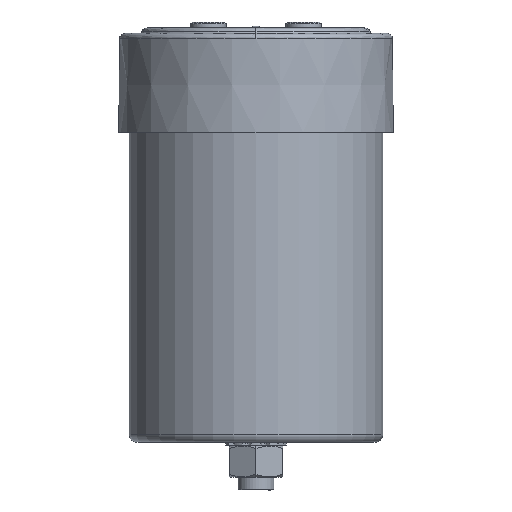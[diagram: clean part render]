
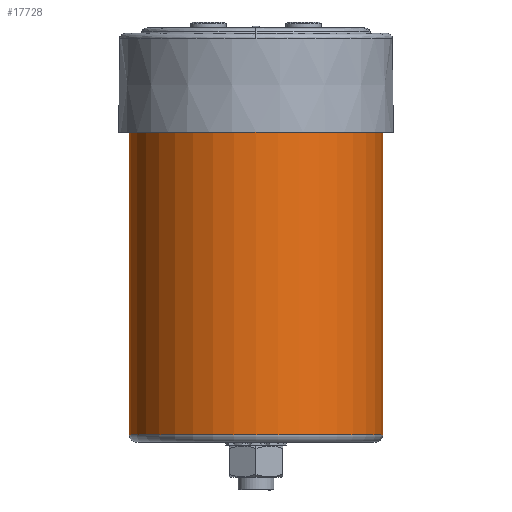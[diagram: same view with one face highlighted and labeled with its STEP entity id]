
A CAD part, left-side view. The second image highlights one B-rep face of the part: STEP entity #17728.
In plain terms, the highlighted cylindrical face has radius 42.5 mm (diameter 85 mm), a partial arc.
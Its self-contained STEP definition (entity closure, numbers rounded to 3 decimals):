
#585 = CARTESIAN_POINT ( 'NONE',  ( 0., 0., 0. ) ) ;
#1256 = ORIENTED_EDGE ( 'NONE', *, *, #18326, .T. ) ;
#2121 = DIRECTION ( 'NONE',  ( 0., -1., 0. ) ) ;
#2130 = LINE ( 'NONE', #14273, #14853 ) ;
#2350 = CYLINDRICAL_SURFACE ( 'NONE', #4437, 42.5 ) ;
#2366 = DIRECTION ( 'NONE',  ( 0., 0., -1. ) ) ;
#2852 = CARTESIAN_POINT ( 'NONE',  ( 0., 42.5, 0. ) ) ;
#3515 = DIRECTION ( 'NONE',  ( 0., 0., -1. ) ) ;
#4437 = AXIS2_PLACEMENT_3D ( 'NONE', #9239, #3515, #4762 ) ;
#4762 = DIRECTION ( 'NONE',  ( 0., -1., 0. ) ) ;
#4766 = DIRECTION ( 'NONE',  ( 0., 0., -1. ) ) ;
#4891 = CARTESIAN_POINT ( 'NONE',  ( 0., 42.5, -129.5 ) ) ;
#6238 = VERTEX_POINT ( 'NONE', #4891 ) ;
#7119 = CARTESIAN_POINT ( 'NONE',  ( 0., -42.5, -129.5 ) ) ;
#7380 = CIRCLE ( 'NONE', #15180, 42.5 ) ;
#7431 = LINE ( 'NONE', #14028, #12561 ) ;
#7694 = CARTESIAN_POINT ( 'NONE',  ( 0., -42.5, 0. ) ) ;
#7783 = CARTESIAN_POINT ( 'NONE',  ( 0., 0., -129.5 ) ) ;
#8447 = VERTEX_POINT ( 'NONE', #7694 ) ;
#9239 = CARTESIAN_POINT ( 'NONE',  ( 0., 0., -132. ) ) ;
#10641 = DIRECTION ( 'NONE',  ( 0., 0., 1. ) ) ;
#10861 = VERTEX_POINT ( 'NONE', #2852 ) ;
#11131 = ORIENTED_EDGE ( 'NONE', *, *, #12097, .F. ) ;
#11197 = VERTEX_POINT ( 'NONE', #7119 ) ;
#11252 = CIRCLE ( 'NONE', #14896, 42.5 ) ;
#12070 = DIRECTION ( 'NONE',  ( 0., -1., 0. ) ) ;
#12097 = EDGE_CURVE ( 'NONE', #8447, #11197, #2130, .T. ) ;
#12561 = VECTOR ( 'NONE', #2366, 1000. ) ;
#12974 = EDGE_CURVE ( 'NONE', #10861, #6238, #7431, .T. ) ;
#13942 = FACE_OUTER_BOUND ( 'NONE', #14394, .T. ) ;
#14028 = CARTESIAN_POINT ( 'NONE',  ( 0., 42.5, -132. ) ) ;
#14210 = DIRECTION ( 'NONE',  ( 0., 0., -1. ) ) ;
#14273 = CARTESIAN_POINT ( 'NONE',  ( 0., -42.5, -132. ) ) ;
#14394 = EDGE_LOOP ( 'NONE', ( #16774, #17827, #1256, #11131 ) ) ;
#14733 = EDGE_CURVE ( 'NONE', #8447, #10861, #7380, .T. ) ;
#14853 = VECTOR ( 'NONE', #14210, 1000. ) ;
#14896 = AXIS2_PLACEMENT_3D ( 'NONE', #7783, #10641, #2121 ) ;
#15180 = AXIS2_PLACEMENT_3D ( 'NONE', #585, #4766, #12070 ) ;
#16774 = ORIENTED_EDGE ( 'NONE', *, *, #14733, .T. ) ;
#17728 = ADVANCED_FACE ( 'NONE', ( #13942 ), #2350, .T. ) ;
#17827 = ORIENTED_EDGE ( 'NONE', *, *, #12974, .T. ) ;
#18326 = EDGE_CURVE ( 'NONE', #6238, #11197, #11252, .T. ) ;
